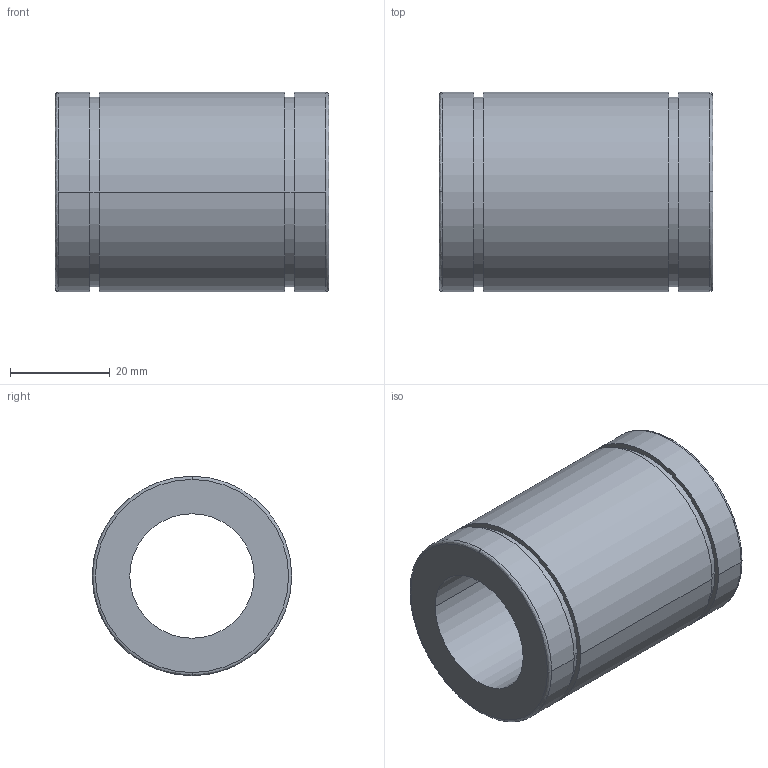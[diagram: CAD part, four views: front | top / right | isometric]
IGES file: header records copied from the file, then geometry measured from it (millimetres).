
Start section: 3D InterOp IGES (Version 21 0 1), Spatial Corp. Copyright (c) 1999-2007.
Global section: file name: N-25AUU.igs; native system: Spatial Corp.; preprocessor: 3D InterOp GENERIC/IGES 3.0; author: Noname; organization: Noname; date: 20220311.144953; units: millimetre
Bounding box: 55 x 40 x 40 mm (x, y, z)
Surface area: 13164.5 mm2 (no closed solid volume)
Topology: 0 solids, 0 shells, 22 faces, 100 edges, 100 vertices
Faces by surface type: revolution 16, extrusion 6
